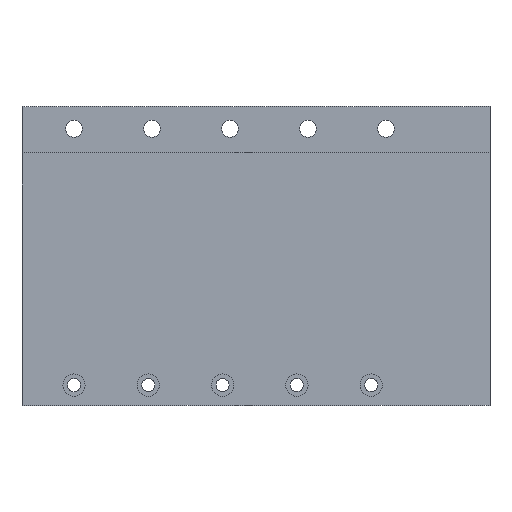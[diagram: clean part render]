
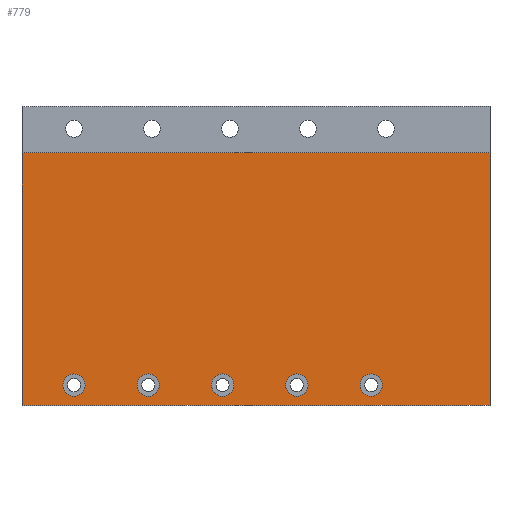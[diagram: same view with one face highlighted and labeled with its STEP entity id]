
A CAD part, front view. The second image highlights one B-rep face of the part: STEP entity #779.
In plain terms, the highlighted planar face has unit normal (0, -1, 0).
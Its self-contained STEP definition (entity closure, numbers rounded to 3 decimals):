
#21=LINE('',#1298,#46);
#29=LINE('',#1334,#54);
#34=LINE('',#1344,#59);
#35=LINE('',#1345,#60);
#46=VECTOR('',#1083,68.);
#54=VECTOR('',#1123,126.);
#59=VECTOR('',#1132,126.);
#60=VECTOR('',#1133,68.);
#80=PLANE('',#892);
#136=FACE_BOUND('',#334,.T.);
#137=FACE_BOUND('',#335,.T.);
#138=FACE_BOUND('',#336,.T.);
#139=FACE_BOUND('',#337,.T.);
#140=FACE_BOUND('',#338,.T.);
#227=FACE_OUTER_BOUND('',#333,.T.);
#333=EDGE_LOOP('',(#684,#685,#686,#687));
#334=EDGE_LOOP('',(#688));
#335=EDGE_LOOP('',(#689));
#336=EDGE_LOOP('',(#690));
#337=EDGE_LOOP('',(#691));
#338=EDGE_LOOP('',(#692));
#361=CIRCLE('',#806,3.);
#365=CIRCLE('',#813,3.);
#369=CIRCLE('',#820,3.);
#373=CIRCLE('',#827,3.);
#377=CIRCLE('',#834,3.);
#417=VERTEX_POINT('',#1177);
#421=VERTEX_POINT('',#1188);
#425=VERTEX_POINT('',#1199);
#429=VERTEX_POINT('',#1210);
#433=VERTEX_POINT('',#1221);
#461=VERTEX_POINT('',#1295);
#462=VERTEX_POINT('',#1297);
#474=VERTEX_POINT('',#1333);
#477=VERTEX_POINT('',#1343);
#489=EDGE_CURVE('',#417,#417,#361,.T.);
#493=EDGE_CURVE('',#421,#421,#365,.T.);
#497=EDGE_CURVE('',#425,#425,#369,.T.);
#501=EDGE_CURVE('',#429,#429,#373,.T.);
#505=EDGE_CURVE('',#433,#433,#377,.T.);
#534=EDGE_CURVE('',#462,#461,#21,.T.);
#549=EDGE_CURVE('',#474,#462,#29,.T.);
#554=EDGE_CURVE('',#461,#477,#34,.T.);
#555=EDGE_CURVE('',#477,#474,#35,.T.);
#684=ORIENTED_EDGE('',*,*,#549,.T.);
#685=ORIENTED_EDGE('',*,*,#534,.T.);
#686=ORIENTED_EDGE('',*,*,#554,.T.);
#687=ORIENTED_EDGE('',*,*,#555,.T.);
#688=ORIENTED_EDGE('',*,*,#489,.T.);
#689=ORIENTED_EDGE('',*,*,#493,.T.);
#690=ORIENTED_EDGE('',*,*,#497,.T.);
#691=ORIENTED_EDGE('',*,*,#501,.T.);
#692=ORIENTED_EDGE('',*,*,#505,.T.);
#779=ADVANCED_FACE('',(#227,#136,#137,#138,#139,#140),#80,.T.);
#806=AXIS2_PLACEMENT_3D('',#1178,#939,#940);
#813=AXIS2_PLACEMENT_3D('',#1189,#953,#954);
#820=AXIS2_PLACEMENT_3D('',#1200,#967,#968);
#827=AXIS2_PLACEMENT_3D('',#1211,#981,#982);
#834=AXIS2_PLACEMENT_3D('',#1222,#995,#996);
#892=AXIS2_PLACEMENT_3D('',#1342,#1130,#1131);
#939=DIRECTION('center_axis',(0.,1.,0.));
#940=DIRECTION('ref_axis',(1.,0.,0.));
#953=DIRECTION('center_axis',(0.,1.,0.));
#954=DIRECTION('ref_axis',(1.,0.,0.));
#967=DIRECTION('center_axis',(0.,1.,0.));
#968=DIRECTION('ref_axis',(1.,0.,0.));
#981=DIRECTION('center_axis',(0.,1.,0.));
#982=DIRECTION('ref_axis',(1.,0.,0.));
#995=DIRECTION('center_axis',(0.,1.,0.));
#996=DIRECTION('ref_axis',(1.,0.,0.));
#1083=DIRECTION('',(0.,0.,-1.));
#1123=DIRECTION('',(-1.,0.,0.));
#1130=DIRECTION('center_axis',(0.,-1.,0.));
#1131=DIRECTION('ref_axis',(0.,0.,-1.));
#1132=DIRECTION('',(1.,0.,0.));
#1133=DIRECTION('',(0.,0.,1.));
#1177=CARTESIAN_POINT('',(-26.,-6.,-34.75));
#1178=CARTESIAN_POINT('Origin',(-29.,-6.,-34.75));
#1188=CARTESIAN_POINT('',(14.,-6.,-34.75));
#1189=CARTESIAN_POINT('Origin',(11.,-6.,-34.75));
#1199=CARTESIAN_POINT('',(34.,-6.,-34.75));
#1200=CARTESIAN_POINT('Origin',(31.,-6.,-34.75));
#1210=CARTESIAN_POINT('',(-6.,-6.,-34.75));
#1211=CARTESIAN_POINT('Origin',(-9.,-6.,-34.75));
#1221=CARTESIAN_POINT('',(-46.,-6.,-34.75));
#1222=CARTESIAN_POINT('Origin',(-49.,-6.,-34.75));
#1295=CARTESIAN_POINT('',(-63.,-6.,-40.25));
#1297=CARTESIAN_POINT('',(-63.,-6.,27.75));
#1298=CARTESIAN_POINT('',(-63.,-6.,-40.25));
#1333=CARTESIAN_POINT('',(63.,-6.,27.75));
#1334=CARTESIAN_POINT('',(38.622,-6.,27.75));
#1342=CARTESIAN_POINT('Origin',(14.245,-6.,14.245));
#1343=CARTESIAN_POINT('',(63.,-6.,-40.25));
#1344=CARTESIAN_POINT('',(63.,-6.,-40.25));
#1345=CARTESIAN_POINT('',(63.,-6.,40.25));
